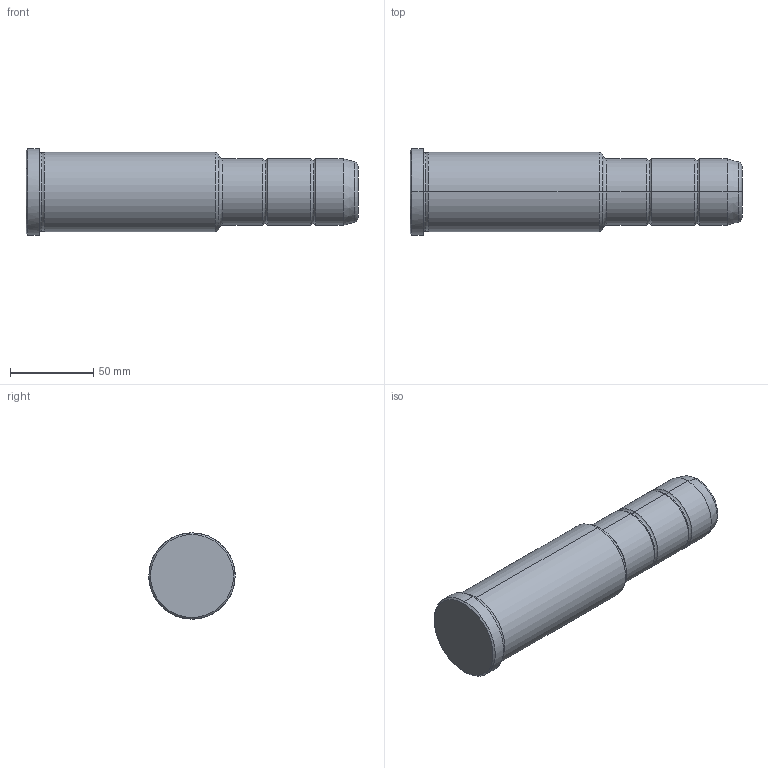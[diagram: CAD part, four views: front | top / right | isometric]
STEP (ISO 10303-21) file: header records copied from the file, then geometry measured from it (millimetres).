
FILE_DESCRIPTION(('CATIA V5 STEP Exchange'),'2;1');
FILE_NAME('C:\Users\Utente\Desktop\IO LAVORO\3D X SITO CF\X SITO\PLASTICA\351\351-40X116X200.stp','2021-10-07T13:20:46+00:00',('none'),('none'),'CATIA Version 5 Release 20 GA (IN-10)','CATIA V5 STEP AP203','none');
FILE_SCHEMA(('CONFIG_CONTROL_DESIGN'));
Length unit declared in the file: millimetre
Products named in the file (1): 351-40X116X200
Bounding box: 200 x 52 x 52 mm (x, y, z)
Volume: 315795.6 mm3; surface area: 31844 mm2
Topology: 1 solids, 1 shells, 36 faces, 102 edges, 70 vertices
Faces by surface type: torus 16, cylinder 10, cone 6, plane 4
Entity records: 1292 total; most frequent: CARTESIAN_POINT 321, ORIENTED_EDGE 204, DIRECTION 166, AXIS2_PLACEMENT_3D 115, EDGE_CURVE 102, CIRCLE 78, VERTEX_POINT 70, EDGE_LOOP 38
